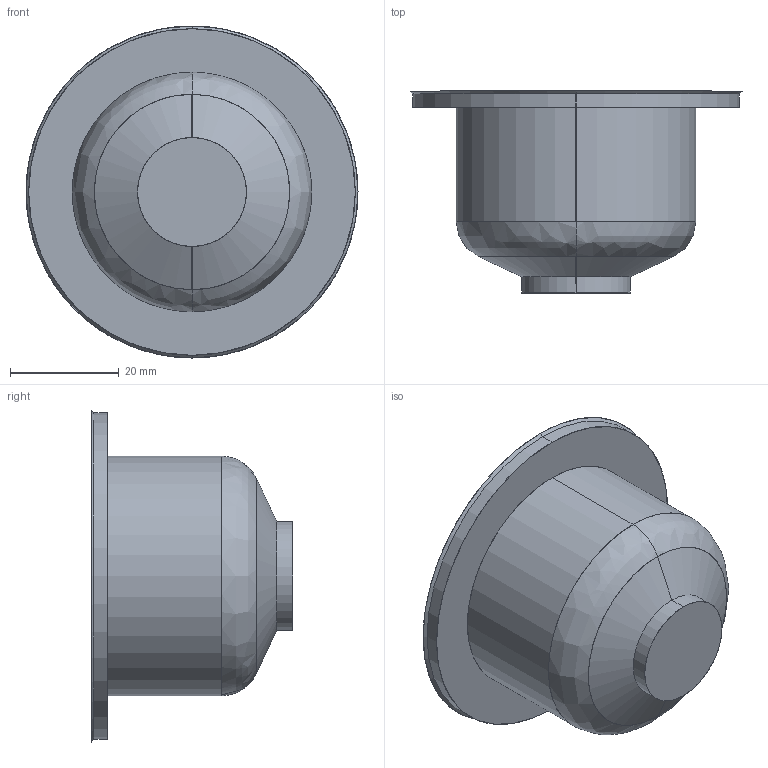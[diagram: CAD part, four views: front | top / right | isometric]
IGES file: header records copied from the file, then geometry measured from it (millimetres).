
Start section: SolidWorks IGES file using analytic representation for surfaces
Global section: file name: C:\Documents and Settings\ws-20\Desktop\TEM\Sede UGER6601-M-A C-34 L-79.IGS; native system: SolidWorks 2012; preprocessor: SolidWorks 2012; author: ws-20; date: 120417.105405; units: millimetre
Bounding box: 61 x 37.09 x 61 mm (x, y, z)
Surface area: 10044.1 mm2 (no closed solid volume)
Topology: 0 solids, 0 shells, 15 faces, 272 edges, 272 vertices
Faces by surface type: revolution 10, bspline 5
